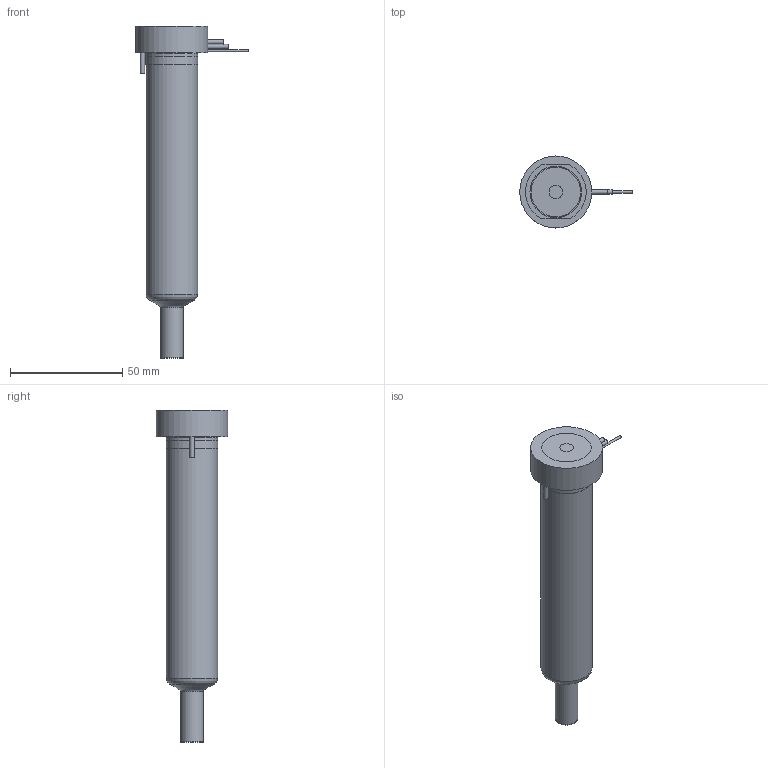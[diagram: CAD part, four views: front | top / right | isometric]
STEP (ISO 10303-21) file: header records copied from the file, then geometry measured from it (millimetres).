
FILE_DESCRIPTION(/* description */ (''),/* implementation_level */ '2;1');
FILE_NAME(/* name */ 'MXYCN13115P7F_200C_a',/* time_stamp */ '2016-02-26T14:52:47+13:00',/* author */ (''),/* organization */ (''),/* preprocessor_version */ 'ST-DEVELOPER v9',/* originating_system */ 'UGS - NX 4.0',/* authorisation */ '');
FILE_SCHEMA (('CONFIG_CONTROL_DESIGN'));
Length unit declared in the file: millimetre
Products named in the file (1): matt70754gmi
Bounding box: 49.95 x 32 x 147.58 mm (x, y, z)
Volume: 95082.1 mm3; surface area: 21866.6 mm2
Topology: 2 solids, 2 shells, 71 faces, 156 edges, 102 vertices
Faces by surface type: plane 31, cylinder 26, torus 7, cone 5, bspline 1, sphere 1
Full cylindrical faces by diameter (mm): 1 x2, 1.6 x1, 2 x3, 4 x1, 6 x1, 9.61 x1, 9.995 x2, 12.6 x1, 18.8 x1, 22.9 x1, 23 x2, 32 x1
Entity records: 2121 total; most frequent: CARTESIAN_POINT 614, DIRECTION 314, ORIENTED_EDGE 234, AXIS2_PLACEMENT_3D 141, EDGE_CURVE 117, EDGE_LOOP 114, VERTEX_POINT 91, ADVANCED_FACE 71
